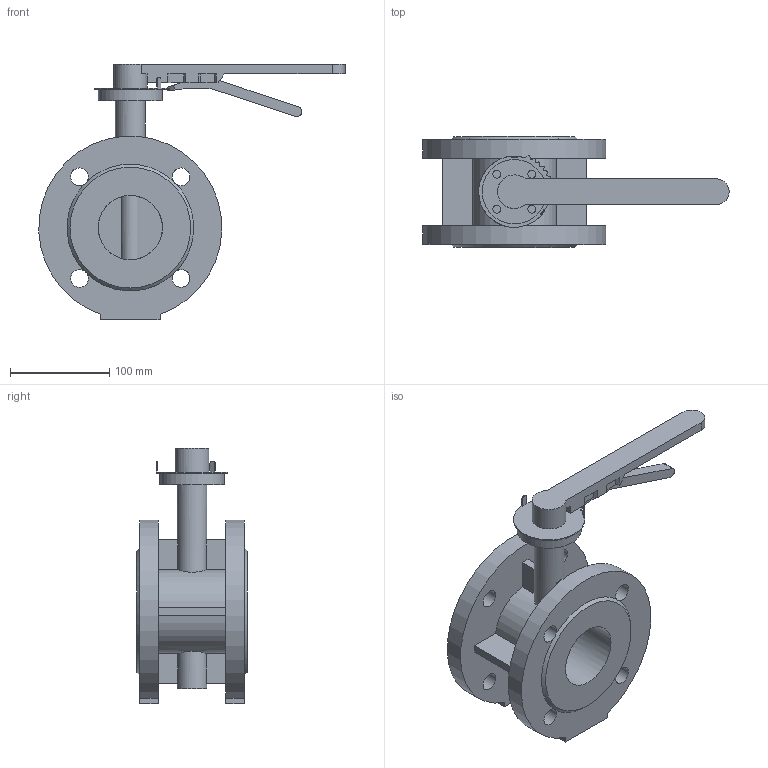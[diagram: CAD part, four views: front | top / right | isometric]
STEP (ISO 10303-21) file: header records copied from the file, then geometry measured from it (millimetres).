
FILE_DESCRIPTION(('STEP AP203'), '1');
FILE_NAME('Çàòâîð 021F.Y DN65 +ðóêîÿòêà', '', ('UNSPECIFIED'), ('UNSPECIFIED'), 'ASCON STEP Converter 1.6', 'ASCON Math Kernel', '');
FILE_SCHEMA(('CONFIG_CONTROL_DESIGN'));
Length unit declared in the file: millimetre
Bounding box: 309.39 x 112 x 258 mm (x, y, z)
Volume: 1398031.1 mm3; surface area: 220107.3 mm2
Topology: 1 solids, 1 shells, 164 faces, 468 edges, 311 vertices
Faces by surface type: plane 105, cylinder 57, cone 2
Full cylindrical faces by diameter (mm): 8 x4, 18 x8, 30 x2, 34 x1, 65 x3
Entity records: 7914 total; most frequent: CARTESIAN_POINT 2252, ORIENTED_EDGE 896, DIRECTION 885, EDGE_CURVE 448, VERTEX_POINT 311, AXIS2_PLACEMENT_3D 299, LINE 287, VECTOR 287
